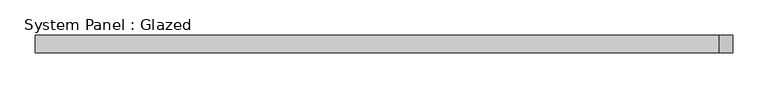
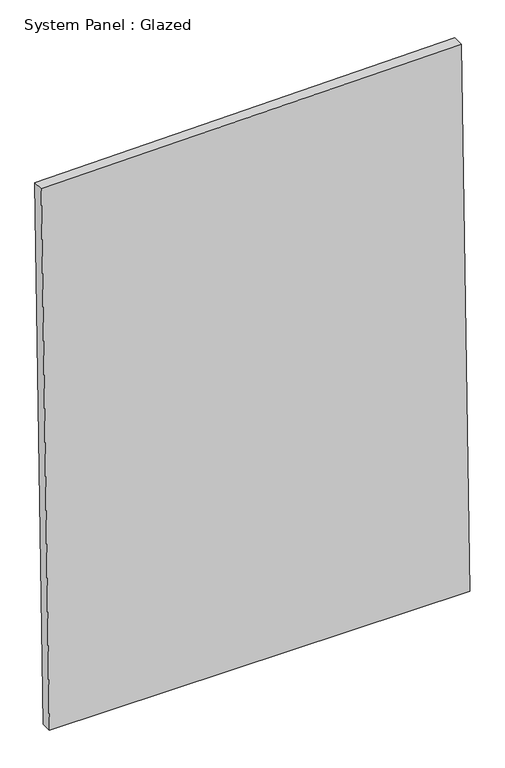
"""IFC4 building model written with IfcOpenShell, lengths in millimetres: plate geometry, System Panel : Glazed."""

from ifc_helpers import new_model, si_unit, frame, origin, place, context, project, spatial, polyline, outline, extrude, source, transform, mapped, element, save


def system_panel_glazed_291f116f(model_context):
    return source(origin(), model_context, "Body", "SweptSolid", [
        extrude(outline(polyline([(0.0, -478.0566423), (0.0, 497.1458726), (1348.6429786, 476.6500314), (1334.2750765, -497.1458726), (0.0, -478.0566423)])), frame((0.0, -49.5, 0.0), z_axis=(0.0, 1.0, 0.0), x_axis=(0.0, 0.0, 1.0)), (0.0, 0.0, 1.0), 25.0),
    ])


if __name__ == "__main__":
    model = new_model("IFC4")
    model_context = context("Model", 3, world=origin())
    ifc_project = project(units=[si_unit("LENGTHUNIT", "METRE", prefix="MILLI")], contexts=[model_context])
    site = spatial("IfcSite", under=ifc_project)
    building = spatial("IfcBuilding", under=site)
    placement = place(None, origin())
    system_panel_glazed_shape = system_panel_glazed_291f116f(model_context)
    element("IfcPlate", 1, ObjectType="System Panel : Glazed", at=placement, inside=building, context=model_context, shape_type="MappedRepresentation", body=[
        mapped(system_panel_glazed_shape, transform((0.0, 0.0, 0.0), x_axis=(1.0, 0.0, 0.0), y_axis=(0.0, 1.0, 0.0), z_axis=(0.0, 0.0, 1.0))),
    ])
    save(model, "model.ifc")
